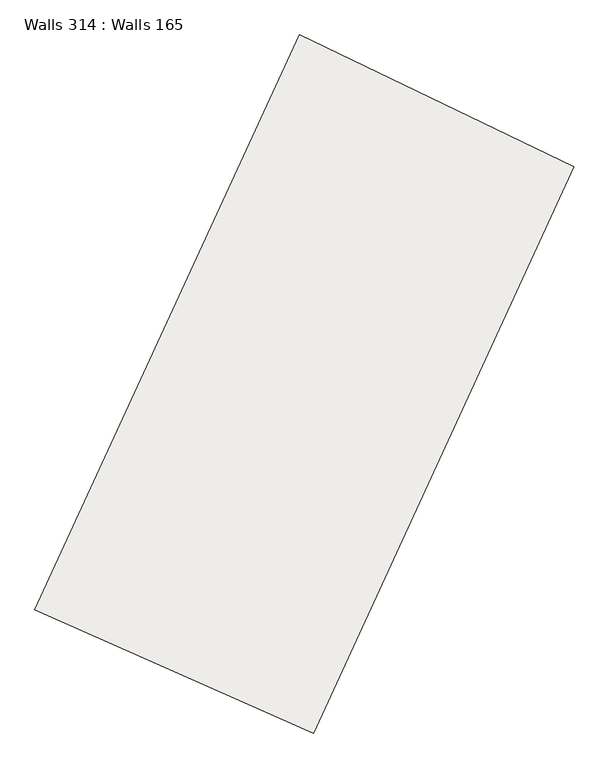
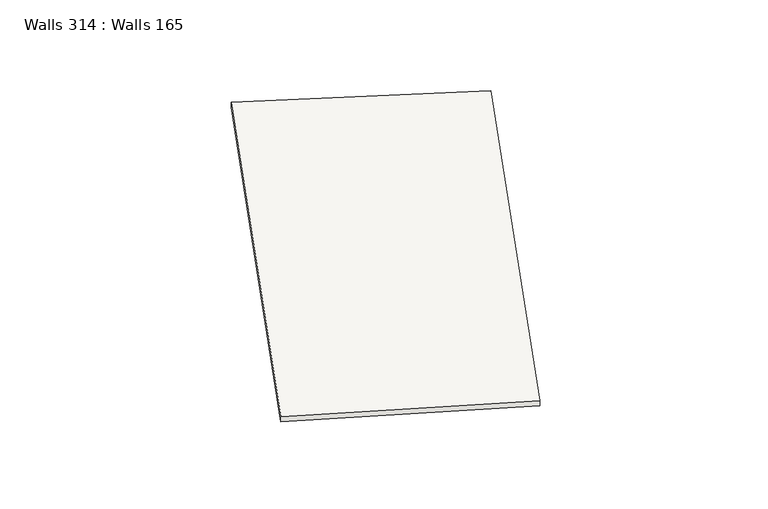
"""IFC4 building model written with IfcOpenShell, lengths in millimetres: slab geometry, Walls 314 : Walls 165."""

from ifc_helpers import new_model, si_unit, frame, origin, place, context, project, spatial, source, transform, mapped, element, save
from ifc_brep_helpers import plane_surface, spline_curve, spline_surface, advanced_brep


def walls_314_walls_165_a6a7d4ee(model_context):
    return source(origin(), model_context, "Body", "AdvancedBrep", [
        advanced_brep(
        [(202623.3425068, 96241.0543475, 641540.0), (202623.3425068, 96241.0543475, 641640.0), (206410.7986998, 94425.7924968, 641640.0), (206410.7986998, 94425.7924968, 641540.0), (198972.1586118, 88314.4987971, 641440.0), (202813.2521866, 86615.8317587, 641440.0), (202813.2521866, 86615.8317587, 641540.0), (198972.1586118, 88314.4987971, 641540.0)],
        [
            (0, 1),
            (1, 2),
            (2, 3),
            (3, 0),
            (4, 5),
            (5, 6),
            (6, 7),
            (7, 4),
            (4, 0, spline_curve(3, [(198972.1586118, 88314.4987971, 641440.0), (200148.754286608, 90975.074216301, 641473.333333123), (201366.005008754, 93617.670633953, 641506.666666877), (202623.3425068, 96241.0543475, 641540.0)], [4, 4], [0.0, 28.424246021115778])),
            (3, 5, spline_curve(3, [(206410.7986998, 94425.7924968, 641540.0), (205171.932906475, 91840.997805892, 641506.666666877), (203972.564088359, 89237.272376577, 641473.333333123), (202813.2521866, 86615.8317587, 641440.0)], [4, 4], [0.0, 28.424246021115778])),
            (6, 2, spline_curve(3, [(202813.2521866, 86615.8317587, 641540.0), (203972.564088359, 89237.272376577, 641573.333333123), (205171.932906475, 91840.997805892, 641606.666666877), (206410.7986998, 94425.7924968, 641640.0)], [4, 4], [0.0, 28.424246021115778])),
            (1, 7, spline_curve(3, [(202623.3425068, 96241.0543475, 641640.0), (201366.005008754, 93617.670633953, 641606.666666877), (200148.754286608, 90975.074216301, 641573.333333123), (198972.1586118, 88314.4987971, 641540.0)], [4, 4], [0.0, 28.424246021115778])),
        ],
        [
            plane_surface(frame((204517.0706033, 95333.4234222, 641590.0), z_axis=(0.4322052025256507, 0.9017752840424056, 0.0), x_axis=(0.0, 0.0, 1.0))),
            plane_surface(frame((200892.7053992, 87465.1652779, 641490.0), z_axis=(-0.40445061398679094, -0.914559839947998, 0.0), x_axis=(0.0, 0.0, 1.0))),
            spline_surface(3, 3, [[(202813.2521866, 86615.8317587, 641440.0), (203972.56408814, 89237.272376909, 641473.333333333), (205171.932906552, 91840.997805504, 641506.666666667), (206410.7986998, 94425.7924968, 641540.0)], [(201532.887661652, 87182.05410482, 641440.0), (202697.960820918, 89816.539656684, 641473.333333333), (203903.290274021, 92433.222081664, 641506.666666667), (205148.313302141, 95030.879780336, 641540.0)], [(200252.523136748, 87748.27645098, 641440.0), (201423.357553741, 90395.806936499, 641473.333333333), (202634.647641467, 93025.446357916, 641506.666666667), (203885.827904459, 95635.967063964, 641540.0)], [(198972.1586118, 88314.4987971, 641440.0), (200148.754286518, 90975.074216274, 641473.333333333), (201366.005008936, 93617.670634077, 641506.666666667), (202623.3425068, 96241.0543475, 641540.0)]], [4, 4], [4, 4], [0.0, 13.779423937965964], [0.0, 28.424246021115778]),
            spline_surface(3, 3, [[(198972.1586118, 88314.4987971, 641540.0), (200148.754286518, 90975.074216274, 641573.333333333), (201366.005008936, 93617.670634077, 641606.666666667), (202623.3425068, 96241.0543475, 641640.0)], [(200252.523136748, 87748.27645098, 641540.0), (201423.357553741, 90395.806936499, 641573.333333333), (202634.647641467, 93025.446357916, 641606.666666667), (203885.827904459, 95635.967063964, 641640.0)], [(201532.887661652, 87182.05410482, 641540.0), (202697.960820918, 89816.539656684, 641573.333333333), (203903.290274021, 92433.222081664, 641606.666666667), (205148.313302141, 95030.879780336, 641640.0)], [(202813.2521866, 86615.8317587, 641540.0), (203972.56408814, 89237.272376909, 641573.333333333), (205171.932906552, 91840.997805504, 641606.666666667), (206410.7986998, 94425.7924968, 641640.0)]], [4, 4], [4, 4], [0.0, 13.779423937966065], [0.0, 28.424246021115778]),
            spline_surface(3, 3, [[(198972.1586118, 88314.4987971, 641440.0), (200148.754286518, 90975.074216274, 641473.333333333), (201366.005008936, 93617.670634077, 641506.666666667), (202623.3425068, 96241.0543475, 641540.0)], [(198972.1586118, 88314.4987971, 641473.333333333), (200148.754286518, 90975.074216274, 641506.666666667), (201366.005008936, 93617.670634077, 641540.0), (202623.3425068, 96241.0543475, 641573.333333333)], [(198972.1586118, 88314.4987971, 641506.666666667), (200148.754286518, 90975.074216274, 641540.0), (201366.005008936, 93617.670634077, 641573.333333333), (202623.3425068, 96241.0543475, 641606.666666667)], [(198972.1586118, 88314.4987971, 641540.0), (200148.754286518, 90975.074216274, 641573.333333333), (201366.005008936, 93617.670634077, 641606.666666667), (202623.3425068, 96241.0543475, 641640.0)]], [4, 4], [4, 4], [0.0, 0.3280839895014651], [0.0, 28.63477073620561]),
            spline_surface(3, 3, [[(202813.2521866, 86615.8317587, 641540.0), (203972.56408814, 89237.272376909, 641573.333333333), (205171.932906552, 91840.997805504, 641606.666666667), (206410.7986998, 94425.7924968, 641640.0)], [(202813.2521866, 86615.8317587, 641506.666666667), (203972.56408814, 89237.272376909, 641540.0), (205171.932906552, 91840.997805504, 641573.333333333), (206410.7986998, 94425.7924968, 641606.666666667)], [(202813.2521866, 86615.8317587, 641473.333333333), (203972.56408814, 89237.272376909, 641506.666666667), (205171.932906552, 91840.997805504, 641540.0), (206410.7986998, 94425.7924968, 641573.333333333)], [(202813.2521866, 86615.8317587, 641440.0), (203972.56408814, 89237.272376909, 641473.333333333), (205171.932906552, 91840.997805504, 641506.666666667), (206410.7986998, 94425.7924968, 641540.0)]], [4, 4], [4, 4], [0.0, 0.3280839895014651], [0.0, 28.213721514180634]),
        ],
        [
            (0, [[1, 2, 3, 4]]),
            (1, [[5, 6, 7, 8]]),
            (2, [[-5, 9, -4, 10]]),
            (3, [[-7, 11, -2, 12]]),
            (4, [[-8, -12, -1, -9]]),
            (5, [[-6, -10, -3, -11]]),
        ],
    ),
    ])


if __name__ == "__main__":
    model = new_model("IFC4")
    model_context = context("Model", 3, world=origin())
    ifc_project = project(units=[si_unit("LENGTHUNIT", "METRE", prefix="MILLI")], contexts=[model_context])
    site = spatial("IfcSite", under=ifc_project)
    building = spatial("IfcBuilding", under=site)
    placement = place(None, origin())
    walls_314_walls_165_shape = walls_314_walls_165_a6a7d4ee(model_context)
    element("IfcSlab", 1, ObjectType="Walls 314 : Walls 165", at=placement, inside=building, context=model_context, shape_type="MappedRepresentation", body=[
        mapped(walls_314_walls_165_shape, transform((0.0, 0.0, 0.0), x_axis=(1.0, 0.0, 0.0), y_axis=(0.0, 1.0, 0.0), z_axis=(0.0, 0.0, 1.0))),
    ])
    save(model, "model.ifc")
